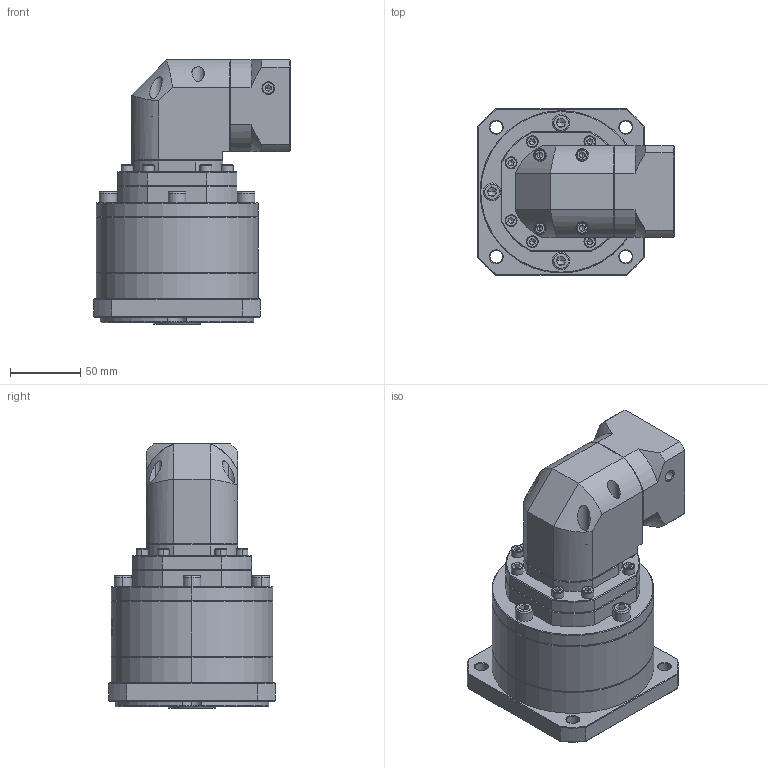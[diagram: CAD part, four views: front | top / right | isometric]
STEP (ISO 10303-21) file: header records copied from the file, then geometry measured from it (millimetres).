
FILE_DESCRIPTION (( 'STEP AP214' ), '1' );
FILE_NAME ('ZFR120A-K25-L3-P2-11-60-75-M5.step', '2023-08-27T09:51:03', ( '' ), ( '' ), 'SwSTEP 2.0', 'SolidWorks 2016', '' );
FILE_SCHEMA (( 'AUTOMOTIVE_DESIGN' ));
Length unit declared in the file: millimetre
Products named in the file (1): ZFR120A-K25-L3-P2-11-60-75-M5
Bounding box: 139.2 x 118 x 187.5 mm (x, y, z)
Volume: 1438039.1 mm3; surface area: 138765.7 mm2
Topology: 6 solids, 6 shells, 2379 faces, 6315 edges, 4052 vertices
Faces by surface type: plane 1165, bspline 438, cylinder 429, cone 339, torus 8
Entity records: 124183 total; most frequent: CARTESIAN_POINT 44178, ORIENTED_EDGE 12526, DIRECTION 9380, EDGE_CURVE 6263, VERTEX_POINT 4052, VECTOR 3366, LINE 3366, AXIS2_PLACEMENT_3D 3007
